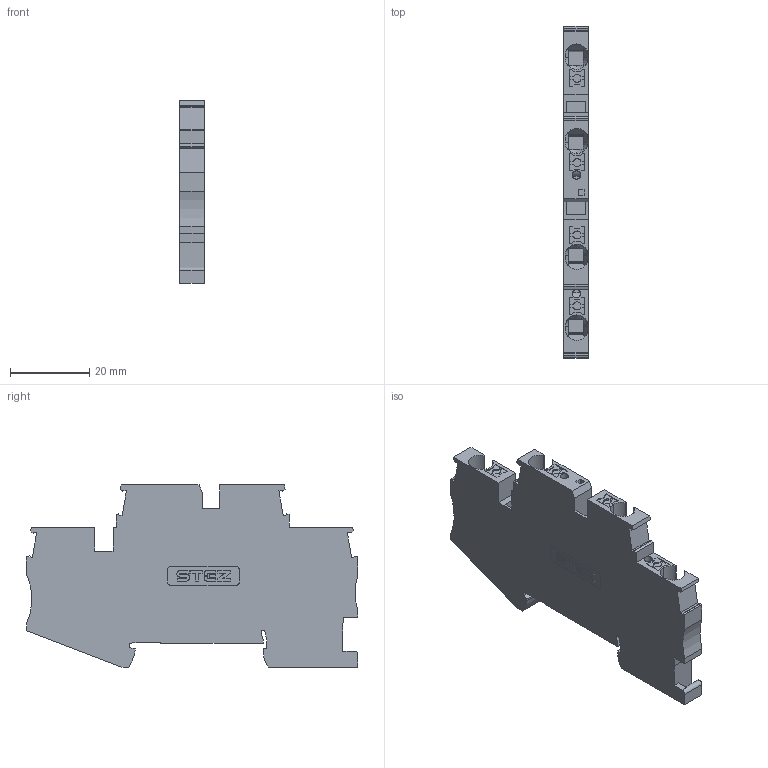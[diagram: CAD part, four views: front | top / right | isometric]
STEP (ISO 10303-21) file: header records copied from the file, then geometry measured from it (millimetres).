
FILE_DESCRIPTION(('TFLEX Exchange Step'),'2;1');
FILE_NAME('14100020_КНБ_4-2У.stp', '2025-06-24T11:05:08+03:00',('MVarava'),('Unknown organisation'),'TFLEX Exchange 2023.0','T-FLEX CAD','Unknown authorisation');
FILE_SCHEMA( ('AUTOMOTIVE_DESIGN { 1 0 10303 214 1 1 1 1 }') );
Length unit declared in the file: millimetre
Products named in the file (1): Nodes
Bounding box: 6.15 x 83.8 x 46.05 mm (x, y, z)
Volume: 16217.1 mm3; surface area: 9429.1 mm2
Topology: 1 solids, 1 shells, 504 faces, 1458 edges, 970 vertices
Faces by surface type: plane 291, cylinder 197, torus 8, cone 8
Full cylindrical faces by diameter (mm): 2.1 x2
Entity records: 18601 total; most frequent: CARTESIAN_POINT 5502, ORIENTED_EDGE 2916, DIRECTION 2535, EDGE_CURVE 1458, VERTEX_POINT 970, VECTOR 865, LINE 865, AXIS2_PLACEMENT_3D 835
